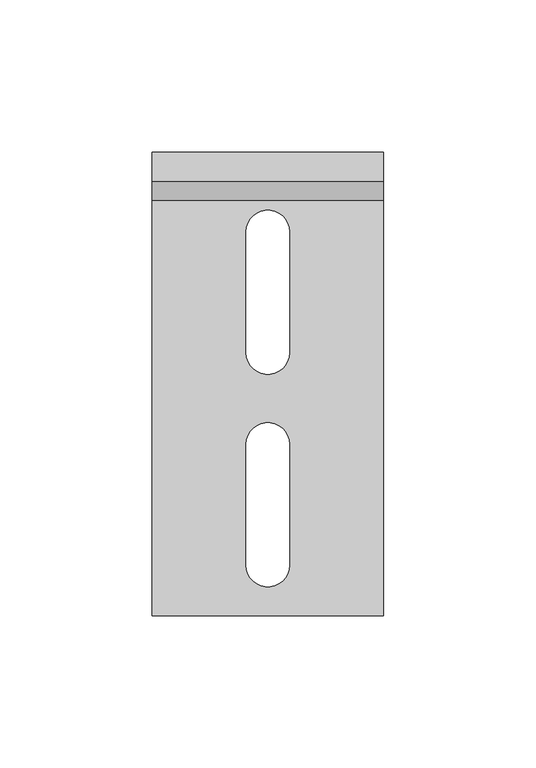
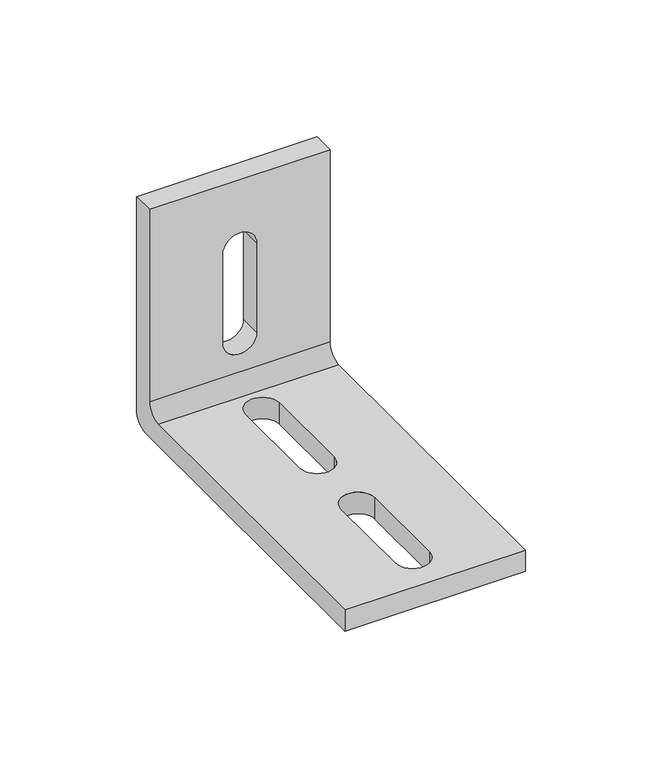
"""IFC4 building model written with IfcOpenShell, lengths in millimetres: proxy geometry, 14NSF-A13 : 14NSF-A13."""

from ifc_helpers import new_model, si_unit, frame, origin, place, context, project, spatial, polyline, circle_curve, source, transform, mapped, element, save
from ifc_brep_helpers import plane_surface, cylinder_surface, revolved_surface, advanced_brep


def generic_models_b7856e18(model_context):
    return source(origin(), model_context, "Body", "AdvancedBrep", [
        advanced_brep(
        [(38.1, -152.4, 0.0), (38.1, -6.35, 0.0), (38.1, 0.0, 6.35), (38.1, 0.0, 101.6), (38.1, -9.525, 101.6), (38.1, -9.525, 15.875), (38.1, -15.875, 9.525), (38.1, -152.4, 9.525), (-38.1, -6.35, 0.0), (-38.1, -152.4, 0.0), (-38.1, -152.4, 9.525), (-38.1, -15.875, 9.525), (-38.1, -9.525, 15.875), (-38.1, -9.525, 101.6), (-38.1, 0.0, 101.6), (-38.1, 0.0, 6.35), (7.14375, -65.8874249, 0.0), (7.14375, -26.1875751, 0.0), (-7.14375, -26.1875751, 0.0), (-7.14375, -65.8874249, 0.0), (7.14375, -135.7374249, 0.0), (7.14375, -96.0375751, 0.0), (-7.14375, -96.0375751, 0.0), (-7.14375, -135.7374249, 0.0), (7.14375, 0.0, 30.9500751), (7.14375, 0.0, 70.6499249), (-7.14375, 0.0, 70.6499249), (-7.14375, 0.0, 30.9500751), (7.14375, -9.525, 70.6499249), (7.14375, -9.525, 30.9500751), (-7.14375, -9.525, 30.9500751), (-7.14375, -9.525, 70.6499249), (7.14375, -26.1875751, 9.525), (7.14375, -65.8874249, 9.525), (-7.14375, -65.8874249, 9.525), (-7.14375, -26.1875751, 9.525), (7.14375, -96.0375751, 9.525), (7.14375, -135.7374249, 9.525), (-7.14375, -135.7374249, 9.525), (-7.14375, -96.0375751, 9.525)],
        [
            (0, 1),
            (1, 2, circle_curve(frame((38.1, -6.35, 6.35), z_axis=(1.0, 0.0, 0.0), x_axis=(0.0, 1.0, 0.0)), 6.35)),
            (2, 3),
            (3, 4),
            (4, 5),
            (5, 6, circle_curve(frame((38.1, -15.875, 15.875), z_axis=(-1.0, 0.0, 0.0), x_axis=(0.0, 1.0, 0.0)), 6.35)),
            (6, 7),
            (7, 0),
            (8, 9),
            (9, 10),
            (10, 11),
            (11, 12, circle_curve(frame((-38.1, -15.875, 15.875), z_axis=(1.0, 0.0, 0.0), x_axis=(0.0, 1.0, 0.0)), 6.35)),
            (12, 13),
            (13, 14),
            (14, 15),
            (15, 8, circle_curve(frame((-38.1, -6.35, 6.35), z_axis=(-1.0, 0.0, 0.0), x_axis=(0.0, 1.0, 0.0)), 6.35)),
            (0, 9),
            (8, 1),
            (16, 17),
            (17, 18, circle_curve(frame((0.0, -26.1875751, 0.0), z_axis=(0.0, 0.0, 1.0), x_axis=(1.0, 0.0, 0.0)), 7.14375)),
            (18, 19),
            (19, 16, circle_curve(frame((0.0, -65.8874249, 0.0), z_axis=(0.0, 0.0, 1.0), x_axis=(1.0, 0.0, 0.0)), 7.14375)),
            (20, 21),
            (21, 22, circle_curve(frame((0.0, -96.0375751, 0.0), z_axis=(0.0, 0.0, 1.0), x_axis=(1.0, 0.0, 0.0)), 7.14375)),
            (22, 23),
            (23, 20, circle_curve(frame((0.0, -135.7374249, 0.0), z_axis=(0.0, 0.0, 1.0), x_axis=(1.0, 0.0, 0.0)), 7.14375)),
            (15, 2),
            (14, 3),
            (24, 25),
            (25, 26, circle_curve(frame((0.0, 0.0, 70.6499249), z_axis=(0.0, -1.0, 0.0), x_axis=(1.0, 0.0, 0.0)), 7.14375)),
            (26, 27),
            (27, 24, circle_curve(frame((0.0, 0.0, 30.9500751), z_axis=(0.0, -1.0, 0.0), x_axis=(1.0, 0.0, 0.0)), 7.14375)),
            (13, 4),
            (12, 5),
            (28, 29),
            (29, 30, circle_curve(frame((0.0, -9.525, 30.9500751), z_axis=(0.0, 1.0, 0.0), x_axis=(1.0, 0.0, 0.0)), 7.14375)),
            (30, 31),
            (31, 28, circle_curve(frame((0.0, -9.525, 70.6499249), z_axis=(0.0, 1.0, 0.0), x_axis=(1.0, 0.0, 0.0)), 7.14375)),
            (11, 6),
            (10, 7),
            (32, 33),
            (33, 34, circle_curve(frame((0.0, -65.8874249, 9.525), z_axis=(0.0, 0.0, -1.0), x_axis=(1.0, 0.0, 0.0)), 7.14375)),
            (34, 35),
            (35, 32, circle_curve(frame((0.0, -26.1875751, 9.525), z_axis=(0.0, 0.0, -1.0), x_axis=(1.0, 0.0, 0.0)), 7.14375)),
            (36, 37),
            (37, 38, circle_curve(frame((0.0, -135.7374249, 9.525), z_axis=(0.0, 0.0, -1.0), x_axis=(1.0, 0.0, 0.0)), 7.14375)),
            (38, 39),
            (39, 36, circle_curve(frame((0.0, -96.0375751, 9.525), z_axis=(0.0, 0.0, -1.0), x_axis=(1.0, 0.0, 0.0)), 7.14375)),
            (16, 33),
            (32, 17),
            (35, 18),
            (34, 19),
            (20, 37),
            (36, 21),
            (39, 22),
            (38, 23),
            (24, 29),
            (28, 25),
            (31, 26),
            (30, 27),
        ],
        [
            plane_surface(frame((38.1, -6.35, 0.0), z_axis=(1.0, 0.0, 0.0), x_axis=(0.0, 1.0, 0.0))),
            plane_surface(frame((-38.1, -6.35, 0.0), z_axis=(-1.0, 0.0, 0.0), x_axis=(0.0, -1.0, 0.0))),
            plane_surface(frame((38.1, -152.4, 0.0), z_axis=(0.0, 0.0, -1.0), x_axis=(-1.0, 0.0, 0.0))),
            cylinder_surface(frame((-38.1, -6.35, 6.35), z_axis=(1.0, 0.0, 0.0), x_axis=(0.0, 1.0, 0.0)), 6.35),
            plane_surface(frame((38.1, 0.0, 6.35), z_axis=(0.0, 1.0, 0.0), x_axis=(-1.0, 0.0, 0.0))),
            plane_surface(frame((38.1, 0.0, 101.6), z_axis=(0.0, 0.0, 1.0), x_axis=(-1.0, 0.0, 0.0))),
            plane_surface(frame((38.1, -9.525, 101.6), z_axis=(0.0, -1.0, 0.0), x_axis=(-1.0, 0.0, 0.0))),
            revolved_surface(polyline([(-38.1, -9.525, 15.875), (38.1, -9.525, 15.875)]), (-38.1, -15.875, 15.875), (-1.0, 0.0, 0.0)),
            plane_surface(frame((38.1, -15.875, 9.525), z_axis=(0.0, 0.0, 1.0), x_axis=(-1.0, 0.0, 0.0))),
            plane_surface(frame((38.1, -152.4, 9.525), z_axis=(0.0, -1.0, 0.0), x_axis=(-1.0, 0.0, 0.0))),
            plane_surface(frame((7.14375, -65.8874249, 12.7), z_axis=(-1.0, 0.0, 0.0), x_axis=(0.0, 0.0, -1.0))),
            revolved_surface(polyline([(7.14375, -26.1875751, 9.525), (7.14375, -26.1875751, 0.0)]), (0.0, -26.1875751, 0.0), (0.0, 0.0, 1.0)),
            plane_surface(frame((-7.14375, -26.1875751, 12.7), z_axis=(1.0, 0.0, 0.0), x_axis=(0.0, 0.0, -1.0))),
            revolved_surface(polyline([(7.14375, -65.8874249, 9.525), (7.14375, -65.8874249, 0.0)]), (0.0, -65.8874249, 0.0), (0.0, 0.0, 1.0)),
            plane_surface(frame((7.14375, -135.7374249, 12.7), z_axis=(-1.0, 0.0, 0.0), x_axis=(0.0, 0.0, -1.0))),
            revolved_surface(polyline([(7.14375, -96.0375751, 9.525), (7.14375, -96.0375751, 0.0)]), (0.0, -96.0375751, 0.0), (0.0, 0.0, 1.0)),
            plane_surface(frame((-7.14375, -96.0375751, 12.7), z_axis=(1.0, 0.0, 0.0), x_axis=(0.0, 0.0, -1.0))),
            revolved_surface(polyline([(7.14375, -135.7374249, 9.525), (7.14375, -135.7374249, 0.0)]), (0.0, -135.7374249, 0.0), (0.0, 0.0, 1.0)),
            plane_surface(frame((7.14375, -12.7, 30.9500751), z_axis=(-1.0, 0.0, 0.0), x_axis=(0.0, 1.0, 0.0))),
            revolved_surface(polyline([(7.14375, -9.525, 70.6499249), (7.14375, 0.0, 70.6499249)]), (0.0, 0.0, 70.6499249), (0.0, -1.0, 0.0)),
            plane_surface(frame((-7.14375, -12.7, 70.6499249), z_axis=(1.0, 0.0, 0.0), x_axis=(0.0, 1.0, 0.0))),
            revolved_surface(polyline([(7.14375, -9.525, 30.9500751), (7.14375, 0.0, 30.9500751)]), (0.0, 0.0, 30.9500751), (0.0, -1.0, 0.0)),
        ],
        [
            (0, [[1, 2, 3, 4, 5, 6, 7, 8]]),
            (1, [[9, 10, 11, 12, 13, 14, 15, 16]]),
            (2, [[-1, 17, -9, 18], [19, 20, 21, 22], [23, 24, 25, 26]]),
            (3, [[-2, -18, -16, 27]]),
            (4, [[-3, -27, -15, 28], [29, 30, 31, 32]]),
            (5, [[-4, -28, -14, 33]]),
            (6, [[-5, -33, -13, 34], [35, 36, 37, 38]]),
            (7, [[-6, -34, -12, 39]]),
            (8, [[-7, -39, -11, 40], [41, 42, 43, 44], [45, 46, 47, 48]]),
            (9, [[-8, -40, -10, -17]]),
            (10, [[-19, 49, -41, 50]]),
            (11, [[-20, -50, -44, 51]]),
            (12, [[-21, -51, -43, 52]]),
            (13, [[-22, -52, -42, -49]]),
            (14, [[-23, 53, -45, 54]]),
            (15, [[-24, -54, -48, 55]]),
            (16, [[-25, -55, -47, 56]]),
            (17, [[-26, -56, -46, -53]]),
            (18, [[57, -35, 58, -29]]),
            (19, [[-58, -38, 59, -30]]),
            (20, [[-59, -37, 60, -31]]),
            (21, [[-57, -32, -60, -36]]),
        ],
    ),
    ])


if __name__ == "__main__":
    model = new_model("IFC4")
    model_context = context("Model", 3, world=origin())
    ifc_project = project(units=[si_unit("LENGTHUNIT", "METRE", prefix="MILLI")], contexts=[model_context])
    site = spatial("IfcSite", under=ifc_project)
    building = spatial("IfcBuilding", under=site)
    placement = place(None, origin())
    generic_models_shape = generic_models_b7856e18(model_context)
    element("IfcBuildingElementProxy", 1, Name="14NSF-A13 : 14NSF-A13", ObjectType="14NSF-A13 : 14NSF-A13", at=placement, inside=building, context=model_context, shape_type="MappedRepresentation", body=[
        mapped(generic_models_shape, transform((0.0, 0.0, 0.0), x_axis=(1.0, 0.0, 0.0), y_axis=(0.0, 1.0, 0.0), z_axis=(0.0, 0.0, 1.0))),
    ])
    save(model, "model.ifc")
